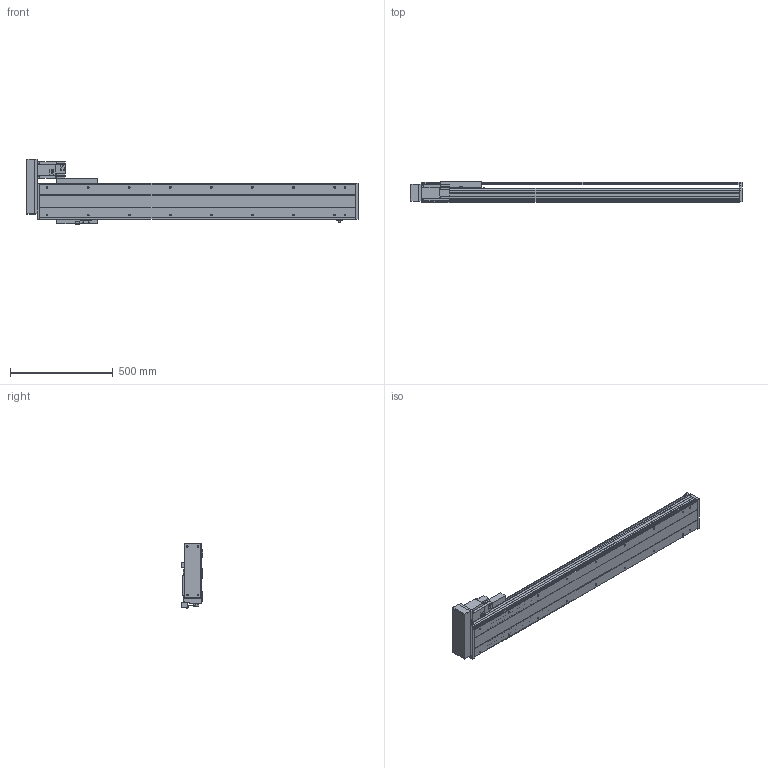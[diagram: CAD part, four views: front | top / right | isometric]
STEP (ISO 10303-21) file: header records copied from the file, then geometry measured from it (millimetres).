
FILE_DESCRIPTION(/* description */ ('STEP AP214'),/* implementation_level */ '2;1');
FILE_NAME(/* name */ 'PSS200-L10-S1200-BL-T75-C1-N(0)',/* time_stamp */ '2022-06-06T04:50:49+02:00',/* author */ ('License CC BY-ND 4.0'),/* organization */ ('CADENAS'),/* preprocessor_version */ 'ST-DEVELOPER v18.102',/* originating_system */ 'PARTsolutions',/* authorisation */ ' ');
FILE_SCHEMA (('AUTOMOTIVE_DESIGN {1 0 10303 214 3 1 1}'));
Length unit declared in the file: millimetre
Products named in the file (8): PSS200-L10-S1200-BL-T75-C1-N(0); PSS200-S1200-BL-N_S; T75-p1; PSS200BL-N_h; PSS200-N_sensor; PSS200-BL-C1-N_sl; PSS200-N_Q; PSS200-S1200-BL-C1-N_body
Assembly tree (9 placements, depth 2):
  PSS200-L10-S1200-BL-T75-C1-N(0)
    PSS200-S1200-BL-N_S
    T75-p1
    PSS200BL-N_h
    PSS200-N_sensor  x3
    PSS200-BL-C1-N_sl
    PSS200-N_Q
    PSS200-S1200-BL-C1-N_body
Bounding box: 1616.85 x 105.3 x 317.86 mm (x, y, z)
Volume: 10311475.2 mm3; surface area: 2498155.9 mm2
Topology: 9 solids, 9 shells, 616 faces, 1645 edges, 1086 vertices
Faces by surface type: plane 466, cylinder 120, cone 26, sphere 4
Full cylindrical faces by diameter (mm): 4 x2, 4.5 x4, 6 x7, 6.647 x22, 7.4 x4, 8 x8, 10 x6, 25 x1, 40 x1, 67 x1
Entity records: 17049 total; most frequent: CARTESIAN_POINT 2923, DIRECTION 2832, ORIENTED_EDGE 2774, EDGE_CURVE 1387, LINE 1090, VECTOR 1090, VERTEX_POINT 962, AXIS2_PLACEMENT_3D 871
